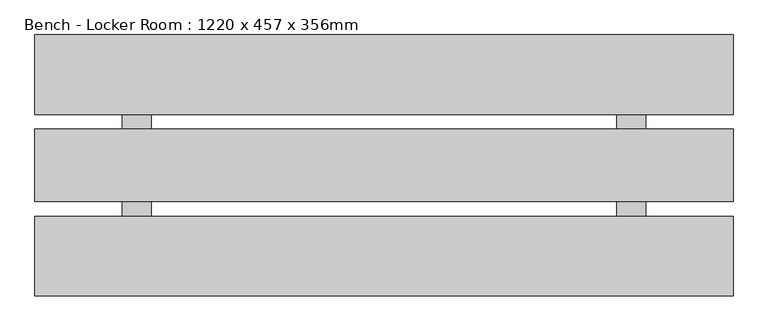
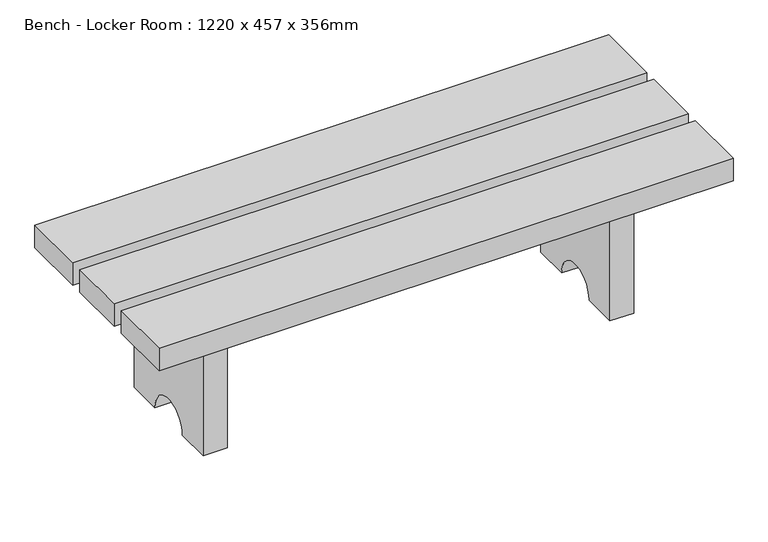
"""IFC4 building model written with IfcOpenShell, lengths in millimetres: furniture geometry, Bench - Locker Room : 1220 x 457 x 356mm."""

from ifc_helpers import new_model, si_unit, point, frame, frame_2d, origin, place, context, project, spatial, polyline, circle_curve, trimmed, segment, composite_curve, outline, extrude, source, transform, mapped, element, save


def bench_locker_room_1220_x_457_x_356mm_af128f29(model_context):
    return source(origin(), model_context, "Body", "SweptSolid", [
        extrude(outline(composite_curve([segment(polyline([(-307.6147541, 0.0), (-307.6147541, 305.2), (-53.8147541, 305.2), (-53.8147541, 0.0), (-130.0147541, 0.0)]), True, "CONTINUOUS"), segment(trimmed(circle_curve(frame_2d((-180.7147541, 0.0)), 50.7), [point((-130.0147541, 0.0))], [point((-231.4147541, 0.0))], True, "CARTESIAN"), True, "CONTINUOUS"), segment(polyline([(-231.4147541, 0.0), (-307.6147541, 0.0)]), True, "CONTINUOUS")], self_intersect=False)), frame((251.4852459, 0.0, 0.0), z_axis=(1.0, 0.0, 0.0), x_axis=(0.0, 1.0, 0.0)), (0.0, 0.0, 1.0), 50.8),
        extrude(outline(composite_curve([segment(polyline([(-53.8147541, 0.0), (-130.0147541, 0.0)]), True, "CONTINUOUS"), segment(trimmed(circle_curve(frame_2d((-180.7147541, 0.0)), 50.7), [point((-130.0147541, 0.0))], [point((-231.4147541, 0.0))], True, "CARTESIAN"), True, "CONTINUOUS"), segment(polyline([(-231.4147541, 0.0), (-307.6147541, 0.0), (-307.6147541, 305.2), (-53.8147541, 305.2), (-53.8147541, 0.0)]), True, "CONTINUOUS")], self_intersect=False)), frame((-612.9147541, 0.0, 0.0), z_axis=(1.0, 0.0, 0.0), x_axis=(0.0, 1.0, 0.0)), (0.0, 0.0, 1.0), 50.8),
        extrude(outline(polyline([(454.6852459, 47.7852459), (454.6852459, -91.8480874), (-765.3147541, -91.8480874), (-765.3147541, 47.7852459), (454.6852459, 47.7852459)])), frame((0.0, 0.0, 305.2), z_axis=(0.0, 0.0, 1.0), x_axis=(1.0, 0.0, 0.0)), (0.0, 0.0, 1.0), 50.8),
        extrude(outline(polyline([(454.6852459, -409.2147541), (-765.3147541, -409.2147541), (-765.3147541, -269.5814208), (454.6852459, -269.5814208), (454.6852459, -409.2147541)])), frame((0.0, 0.0, 305.2), z_axis=(0.0, 0.0, 1.0), x_axis=(1.0, 0.0, 0.0)), (0.0, 0.0, 1.0), 50.8),
        extrude(outline(polyline([(454.6852459, -117.2480874), (454.6852459, -244.1814208), (-765.3147541, -244.1814208), (-765.3147541, -117.2480874), (454.6852459, -117.2480874)])), frame((0.0, 0.0, 305.2), z_axis=(0.0, 0.0, 1.0), x_axis=(1.0, 0.0, 0.0)), (0.0, 0.0, 1.0), 50.8),
    ])


if __name__ == "__main__":
    model = new_model("IFC4")
    model_context = context("Model", 3, world=origin())
    ifc_project = project(units=[si_unit("LENGTHUNIT", "METRE", prefix="MILLI")], contexts=[model_context])
    site = spatial("IfcSite", under=ifc_project)
    building = spatial("IfcBuilding", under=site)
    placement = place(None, origin())
    bench_locker_room_1220_x_457_x_356mm_shape = bench_locker_room_1220_x_457_x_356mm_af128f29(model_context)
    element("IfcFurniture", 1, ObjectType="Bench - Locker Room : 1220 x 457 x 356mm", at=placement, inside=building, context=model_context, shape_type="MappedRepresentation", body=[
        mapped(bench_locker_room_1220_x_457_x_356mm_shape, transform((0.0, 0.0, 0.0), x_axis=(1.0, 0.0, 0.0), y_axis=(0.0, 1.0, 0.0), z_axis=(0.0, 0.0, 1.0))),
    ])
    save(model, "model.ifc")
